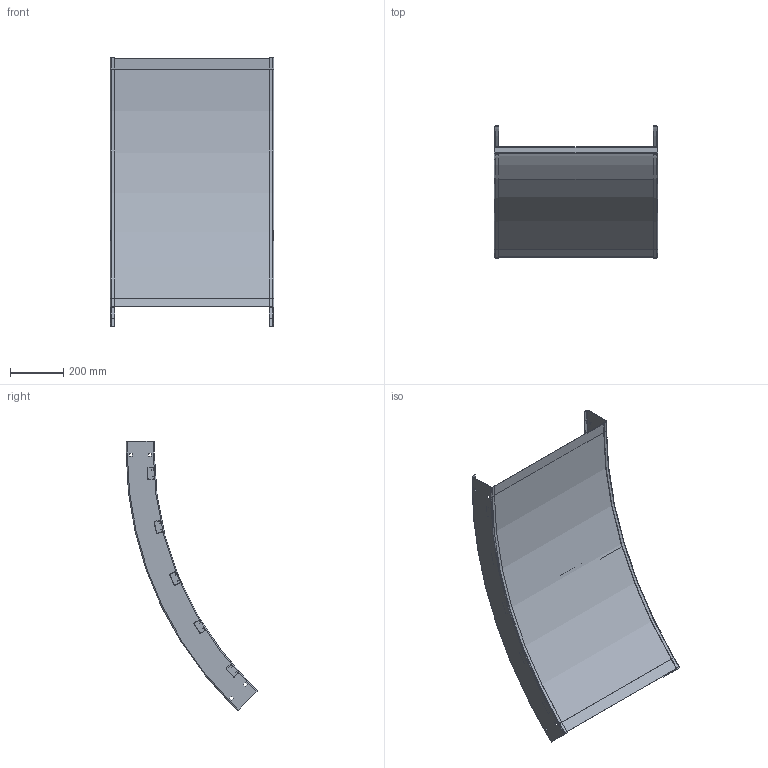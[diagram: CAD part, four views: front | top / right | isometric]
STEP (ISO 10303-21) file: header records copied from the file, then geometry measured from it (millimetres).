
FILE_DESCRIPTION((''),'2;1');
FILE_NAME('AUF424SVO4548_ASM','2010-02-02T',('erouzier'),(''),'PRO/ENGINEER BY PARAMETRIC TECHNOLOGY CORPORATION, 2008510','PRO/ENGINEER BY PARAMETRIC TECHNOLOGY CORPORATION, 2008510','');
FILE_SCHEMA(('CONFIG_CONTROL_DESIGN'));
Length unit declared in the file: inch
Products named in the file (5): CDS001416_4_45_48; CDS002159L24; CDS002159L24-P; CDS003665_45_48_24; AUF424SVO4548_ASM
Assembly tree (8 placements, depth 2):
  AUF424SVO4548_ASM
    CDS001416_4_45_48  x2
    CDS002159L24  x3
    CDS002159L24-P  x2
    CDS003665_45_48_24
Bounding box: 613.71 x 494.11 x 1012.65 mm (x, y, z)
Volume: 1636795.3 mm3; surface area: 2546050 mm2
Topology: 8 solids, 8 shells, 632 faces, 1776 edges, 1160 vertices
Faces by surface type: plane 367, cylinder 257, torus 8
Entity records: 10151 total; most frequent: DIRECTION 1754, CARTESIAN_POINT 1741, ORIENTED_EDGE 1720, EDGE_CURVE 860, VECTOR 608, LINE 608, AXIS2_PLACEMENT_3D 573, VERTEX_POINT 560
